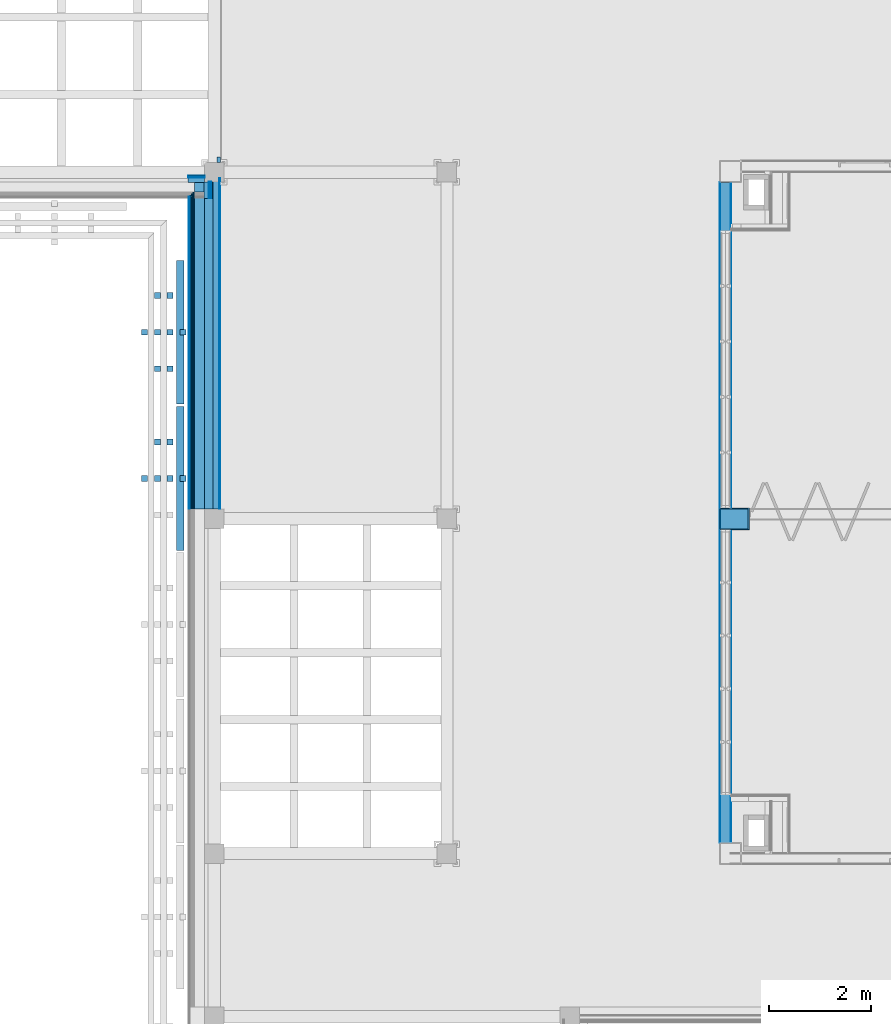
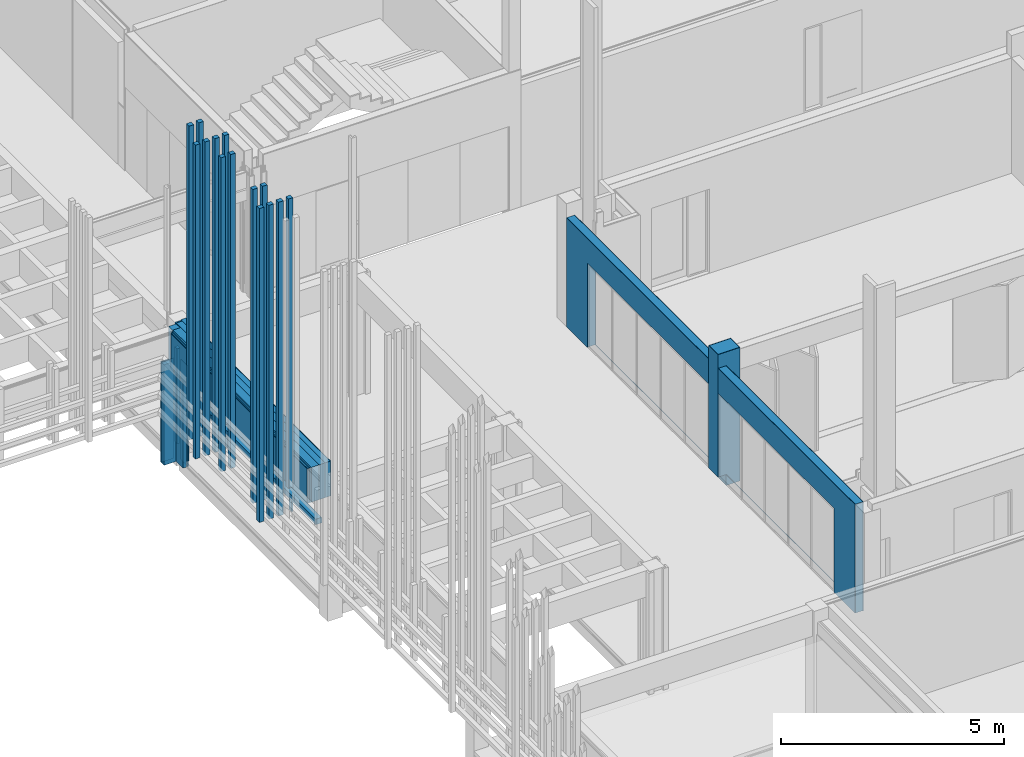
# One storey, part 75 of 139: 23 building element parts, 8 discrete accessories, 2 openings, 5 elements without a shape of their own.
"""IFC2X3 building model written with IfcOpenShell, lengths in millimetres."""

from ifc_helpers import new_model, entity, si_unit, converted_unit, derived_unit, money_unit, direction, frame, origin_with_axes, place, context, subcontext, project, spatial, faceted_brep, material, material_list, type_object, element, aggregate, save


model = new_model("IFC2X3")

# Units and contexts
model_context = context("Model", 3, precision=0.01, world=origin_with_axes(), true_north=direction((0.0, 1.0)))
body_context = subcontext(model_context, "Body", "Model", "MODEL_VIEW")
ifc_project = project(units=[si_unit("LENGTHUNIT", "METRE", prefix="MILLI"), si_unit("AREAUNIT", "SQUARE_METRE"), si_unit("VOLUMEUNIT", "CUBIC_METRE"), converted_unit("PLANEANGLEUNIT", "DEGREE", entity("IfcPlaneAngleMeasure", 0.0174532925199), si_unit("PLANEANGLEUNIT", "RADIAN"), dimensions=[0, 0, 0, 0, 0, 0, 0]), money_unit("EUR"), converted_unit("TIMEUNIT", "Year", entity("IfcTimeMeasure", 31556926.0), si_unit("TIMEUNIT", "SECOND"), dimensions=[0, 0, 1, 0, 0, 0, 0]), si_unit("MASSUNIT", "GRAM", prefix="KILO"), si_unit("THERMODYNAMICTEMPERATUREUNIT", "DEGREE_CELSIUS"), si_unit("LUMINOUSINTENSITYUNIT", "LUMEN"), si_unit("ENERGYUNIT", "JOULE", prefix="MEGA"), derived_unit("THERMALCONDUCTANCEUNIT", [(si_unit("POWERUNIT", "WATT"), 1), (si_unit("LENGTHUNIT", "METRE"), -1), (si_unit("THERMODYNAMICTEMPERATUREUNIT", "KELVIN"), -1)]), derived_unit("SPECIFICHEATCAPACITYUNIT", [(si_unit("ENERGYUNIT", "JOULE"), 1), (si_unit("MASSUNIT", "GRAM", prefix="KILO"), -1), (si_unit("THERMODYNAMICTEMPERATUREUNIT", "KELVIN"), -1)]), derived_unit("MASSDENSITYUNIT", [(si_unit("MASSUNIT", "GRAM", prefix="KILO"), 1), (si_unit("VOLUMEUNIT", "CUBIC_METRE"), -1)])], contexts=[model_context])

# Site, building, storey
site_placement = place(None, origin_with_axes())
site = spatial("IfcSite", under=ifc_project, at=site_placement, Name="Kolde pst 67a", CompositionType="ELEMENT")
building_placement = place(site_placement, origin_with_axes())
building = spatial("IfcBuilding", under=site, at=building_placement, Name="Riigigümnaasium", CompositionType="ELEMENT")
storey_placement = place(building_placement, frame((0.0, 0.0, 4600.0), z_axis=(0.0, 0.0, 1.0), x_axis=(1.0, 0.0, 0.0)))
storey = spatial("IfcBuildingStorey", under=building, at=storey_placement, Name="2. korrus", CompositionType="ELEMENT", Elevation=4600.0)

# Discrete accessories
ifc_material_1 = material(Name="_VÄLISVIIMISTLUS - sõrmjätkatud puitprussid 120x115mm, liitekohad vähemärgatavad, Platowood sõrmjätkatud kuusk või samaväärne; eeltöödeldud tuletõkkevõõbaga, tuletundlikkus B-s1, d0, Woodsafe Exterior WFX™ või samaväärne; kinnitused vastavalt EK osale")
ifc_material_list_1 = material_list([ifc_material_1, ifc_material_1, ifc_material_1, ifc_material_1])
discrete_accessory_type_1 = type_object("IfcDiscreteAccessoryType", Name="120 4-ne vertikaalne 870 x 115")
discrete_accessory_1_placement = place(storey_placement, frame((47687.9824571, 18226.7791441, 2150.0), z_axis=(0.0, 0.0, 1.0), x_axis=(-0.999999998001, -6.32316306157e-05, 0.0)))
element("IfcDiscreteAccessory", 1, at=discrete_accessory_1_placement, inside=storey, type_object=discrete_accessory_type_1, material=ifc_material_list_1, Name="Päikesevarjestus", context=body_context, shape_type="Brep", body=[
    faceted_brep([(47.9851405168, -70.0, 0.0), (47.9851405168, -70.0, 519.999664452), (47.9851405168, -70.0, 669.999664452), (133.0, -70.0, 669.999664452), (133.0, -70.0, 8580.0), (13.0, -70.0, 8580.0), (13.0, -70.0, 0.0), (47.9924121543, 45.0, 519.999664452), (47.9924121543, 45.0, 0.0), (47.9924121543, 45.0, 669.999664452), (133.0, 45.0, 669.999664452), (133.0, 45.0, 8580.0), (13.0, 45.0, 8580.0), (13.0, 45.0, 0.0)], [[[0, 1, 2, 3, 4, 5, 6]], [[7, 1, 0, 8]], [[1, 7, 9, 2]], [[10, 3, 2, 9]], [[4, 3, 10, 11]], [[5, 4, 11, 12]], [[5, 12, 13, 6]], [[8, 0, 6, 13]], [[7, 8, 13, 12, 11, 10, 9]]]),
    faceted_brep([(383.0, 45.0, 0.0), (263.0, 45.0, 0.0), (263.0, 45.0, 8580.0), (383.0, 45.0, 8580.0), (383.0, -70.0, 0.0), (263.0, -70.0, 0.0), (263.0, -70.0, 8580.0), (383.0, -70.0, 8580.0)], [[[0, 1, 2, 3]], [[0, 4, 5, 1]], [[1, 5, 6, 2]], [[3, 2, 6, 7]], [[4, 0, 3, 7]], [[5, 4, 7, 6]]]),
    faceted_brep([(633.0, 45.0, 0.0), (513.0, 45.0, 0.0), (513.0, 45.0, 8580.0), (633.0, 45.0, 8580.0), (633.0, -70.0, 0.0), (513.0, -70.0, 0.0), (513.0, -70.0, 8580.0), (633.0, -70.0, 8580.0)], [[[0, 1, 2, 3]], [[0, 4, 5, 1]], [[1, 5, 6, 2]], [[3, 2, 6, 7]], [[4, 0, 3, 7]], [[5, 4, 7, 6]]]),
    faceted_brep([(883.0, 45.0, 0.0), (763.0, 45.0, 0.0), (763.0, 45.0, 8580.0), (883.0, 45.0, 8580.0), (883.0, -70.0, 0.0), (763.0, -70.0, 0.0), (763.0, -70.0, 8580.0), (883.0, -70.0, 8580.0)], [[[0, 1, 2, 3]], [[0, 4, 5, 1]], [[1, 5, 6, 2]], [[3, 2, 6, 7]], [[4, 0, 3, 7]], [[5, 4, 7, 6]]]),
])
discrete_accessory_2_placement = place(storey_placement, frame((47687.9900449, 21086.7339336, 2150.0), z_axis=(0.0, 0.0, 1.0), x_axis=(-0.999999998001, -6.32316306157e-05, 0.0)))
element("IfcDiscreteAccessory", 2, at=discrete_accessory_2_placement, inside=storey, type_object=discrete_accessory_type_1, material=ifc_material_list_1, Name="Päikesevarjestus", context=body_context, shape_type="Brep", body=[
    faceted_brep([(47.9927283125, -70.0, 0.0), (47.9927283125, -70.0, 519.999664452), (47.9927283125, -70.0, 669.999664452), (133.0, -70.0, 669.999664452), (133.0, -70.0, 8580.0), (13.0, -70.0, 8580.0), (13.0, -70.0, 0.0), (47.99999995, 45.0, 519.999664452), (47.99999995, 45.0, 0.0), (47.99999995, 45.0, 669.999664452), (133.0, 45.0, 669.999664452), (133.0, 45.0, 8580.0), (13.0, 45.0, 8580.0), (13.0, 45.0, 0.0)], [[[0, 1, 2, 3, 4, 5, 6]], [[7, 1, 0, 8]], [[1, 7, 9, 2]], [[10, 3, 2, 9]], [[4, 3, 10, 11]], [[5, 4, 11, 12]], [[5, 12, 13, 6]], [[8, 0, 6, 13]], [[7, 8, 13, 12, 11, 10, 9]]]),
    faceted_brep([(383.0, 45.0, 0.0), (263.0, 45.0, 0.0), (263.0, 45.0, 8580.0), (383.0, 45.0, 8580.0), (383.0, -70.0, 0.0), (263.0, -70.0, 0.0), (263.0, -70.0, 8580.0), (383.0, -70.0, 8580.0)], [[[0, 1, 2, 3]], [[0, 4, 5, 1]], [[1, 5, 6, 2]], [[3, 2, 6, 7]], [[4, 0, 3, 7]], [[5, 4, 7, 6]]]),
    faceted_brep([(633.0, 45.0, 0.0), (513.0, 45.0, 0.0), (513.0, 45.0, 8580.0), (633.0, 45.0, 8580.0), (633.0, -70.0, 0.0), (513.0, -70.0, 0.0), (513.0, -70.0, 8580.0), (633.0, -70.0, 8580.0)], [[[0, 1, 2, 3]], [[0, 4, 5, 1]], [[1, 5, 6, 2]], [[3, 2, 6, 7]], [[4, 0, 3, 7]], [[5, 4, 7, 6]]]),
    faceted_brep([(883.0, 45.0, 0.0), (763.0, 45.0, 0.0), (763.0, 45.0, 8580.0), (883.0, 45.0, 8580.0), (883.0, -70.0, 0.0), (763.0, -70.0, 0.0), (763.0, -70.0, 8580.0), (883.0, -70.0, 8580.0)], [[[0, 1, 2, 3]], [[0, 4, 5, 1]], [[1, 5, 6, 2]], [[3, 2, 6, 7]], [[4, 0, 3, 7]], [[5, 4, 7, 6]]]),
])
ifc_material_list_2 = material_list([ifc_material_1, ifc_material_1])
discrete_accessory_type_2 = type_object("IfcDiscreteAccessoryType", Name="1+paiksekaitse 3 370 x 115")
for number, where, z_axis, x_axis in (
    (3, (46707.9854612, 21754.9192401, 2150.0), (0.0, 0.0, 1.0), (1.0, 0.0, 0.0)),
    (4, (46707.9854612, 18894.9192401, 2150.0), (0.0, 0.0, 1.0), (1.0, 0.0, 0.0)),
    (5, (46707.9854612, 20324.9192401, 2150.0), (0.0, 0.0, 1.0), (1.0, 0.0, 0.0)),
):
    element("IfcDiscreteAccessory", number, at=place(storey_placement, frame(where, z_axis=z_axis, x_axis=x_axis)), inside=storey, type_object=discrete_accessory_type_2, material=ifc_material_list_2, Name="Päikesevarjestus", context=body_context, shape_type="Brep", body=[
        faceted_brep([(467.0, 117.5, 0.0), (347.0, 117.5, 0.0), (347.0, 117.5, 8580.0), (467.0, 117.5, 8580.0), (467.0, 2.5, 0.0), (347.0, 2.5, 0.0), (347.0, 2.5, 8580.0), (467.0, 2.5, 8580.0)], [[[0, 1, 2, 3]], [[0, 4, 5, 1]], [[1, 5, 6, 2]], [[3, 2, 6, 7]], [[4, 0, 3, 7]], [[5, 4, 7, 6]]]),
        faceted_brep([(717.0, 117.5, 0.0), (597.0, 117.5, 0.0), (597.0, 117.5, 8580.0), (717.0, 117.5, 8580.0), (717.0, 2.5, 0.0), (597.0, 2.5, 0.0), (597.0, 2.5, 8580.0), (717.0, 2.5, 8580.0)], [[[0, 1, 2, 3]], [[0, 4, 5, 1]], [[1, 5, 6, 2]], [[3, 2, 6, 7]], [[4, 0, 3, 7]], [[5, 4, 7, 6]]]),
    ])
ifc_material_2 = material(Name="_METALL - teras")
discrete_accessory_type_3 = type_object("IfcDiscreteAccessoryType", Name="_METALL - teras 74 x 105")
discrete_accessory_3_placement = place(storey_placement, frame((48317.9854616, 24472.5014333, 0.0), z_axis=(0.0, 0.0, 1.0), x_axis=(-1.0, 0.0, 0.0)))
element("IfcDiscreteAccessory", 6, at=discrete_accessory_3_placement, inside=storey, type_object=discrete_accessory_type_3, material=ifc_material_2, Name="Tuletõkke kardin", context=body_context, shape_type="Brep", body=[
    faceted_brep([(37.0, 52.5, 2600.0), (37.0, 52.5, 0.0), (-37.0, 52.5, 0.0), (-37.0, 52.5, 2600.0), (37.0, -52.5, 2600.0), (37.0, -52.5, 0.0), (-37.0, -52.5, 0.0), (-37.0, -52.5, 2600.0)], [[[0, 1, 2, 3]], [[4, 5, 1, 0]], [[2, 1, 5, 6]], [[3, 2, 6, 7]], [[4, 0, 3, 7]], [[7, 6, 5, 4]]]),
])
ifc_material_3 = material(Name="_METALL - alumiinium")
discrete_accessory_type_4 = type_object("IfcDiscreteAccessoryType", Name="_METALL - alumiinium 155 x 150")
discrete_accessory_4_placement = place(storey_placement, frame((47562.4928905, 16831.7332373, 2744.99966445), z_axis=(0.0, 0.0, 1.0), x_axis=(1.0, 0.0, 0.0)))
element("IfcDiscreteAccessory", 7, at=discrete_accessory_4_placement, inside=storey, type_object=discrete_accessory_type_4, material=ifc_material_3, Name="Kardinvarjestus", context=body_context, shape_type="Brep", body=[
    faceted_brep([(77.5, 0.0, 75.0), (77.5, 2815.09022596, 75.0), (-77.5, 2815.09022596, 75.0), (-77.5, 0.0, 75.0), (77.5, 0.0, -75.0), (77.5, 2815.09022596, -75.0), (-77.5, 2815.09022596, -75.0), (-77.5, 0.0, -75.0)], [[[0, 1, 2, 3]], [[4, 5, 1, 0]], [[2, 1, 5, 6]], [[3, 2, 6, 7]], [[4, 0, 3, 7]], [[7, 6, 5, 4]]]),
])
discrete_accessory_5_placement = place(storey_placement, frame((47562.4928905, 19691.7332373, 2744.99966445), z_axis=(0.0, 0.0, 1.0), x_axis=(1.0, 0.0, 0.0)))
element("IfcDiscreteAccessory", 8, at=discrete_accessory_5_placement, inside=storey, type_object=discrete_accessory_type_4, material=ifc_material_3, Name="Kardinvarjestus", context=body_context, shape_type="Brep", body=[
    faceted_brep([(77.5, 0.0, 75.0), (77.5, 2814.9998744, 75.0), (-77.5, 2814.9998744, 75.0), (-77.5, 0.0, 75.0), (77.5, 0.0, -75.0), (77.5, 2814.9998744, -75.0), (-77.5, 2814.9998744, -75.0), (-77.5, 0.0, -75.0)], [[[0, 1, 2, 3]], [[4, 5, 1, 0]], [[2, 1, 5, 6]], [[3, 2, 6, 7]], [[4, 0, 3, 7]], [[7, 6, 5, 4]]]),
])

# Wall, openings, building element parts
wall_type_1 = type_object("IfcWallType", Name="SS-RB-20/1_+2 krohv 55 dB 220", PredefinedType="NOTDEFINED")
wall_1_placement = place(storey_placement, frame((58329.9488767, 24239.9999727, -15.0), z_axis=(0.0, 0.0, 1.0), x_axis=(0.0, -1.0, 0.0)))
wall_1 = element("IfcWall", 9, at=wall_1_placement, inside=storey, type_object=wall_type_1, Name="Sisesein")
opening_1_placement = place(wall_1_placement, frame((3862.50003466, 0.0, 15.0), z_axis=(0.0, 0.0, 1.0), x_axis=(1.0, 0.0, 0.0)))
element("IfcOpeningElement", 10, at=opening_1_placement, cuts=wall_1, Name="Ava", context=body_context, shape_type="Brep", body=[
    faceted_brep([(2717.50003466, 440.0, 0.0), (2717.50003466, 440.0, 2300.0), (2717.50003466, -220.0, 2300.0), (2717.50003466, -220.0, 0.0), (-2717.50003466, 440.0, 0.0), (-2717.50003466, 440.0, 2300.0), (-2717.50003466, -220.0, 2300.0), (-2717.50003466, -220.0, 0.0)], [[[0, 1, 2, 3]], [[0, 4, 5, 1]], [[1, 5, 6, 2]], [[3, 2, 6, 7]], [[4, 0, 3, 7]], [[5, 4, 7, 6]]]),
])
opening_2_placement = place(wall_1_placement, frame((9597.51903067, 0.0, 15.0), z_axis=(0.0, 0.0, 1.0), x_axis=(1.0, 0.0, 0.0)))
element("IfcOpeningElement", 11, at=opening_2_placement, cuts=wall_1, Name="Ava", context=body_context, shape_type="Brep", body=[
    faceted_brep([(2597.51900133, 440.0, 0.0), (2597.51900133, 440.0, 2300.0), (2597.51900133, -220.0, 2300.0), (2597.51900133, -220.0, 0.0), (-2597.51900133, 440.0, 0.0), (-2597.51900133, 440.0, 2300.0), (-2597.51900133, -220.0, 2300.0), (-2597.51900133, -220.0, 0.0)], [[[0, 1, 2, 3]], [[0, 4, 5, 1]], [[1, 5, 6, 2]], [[3, 2, 6, 7]], [[4, 0, 3, 7]], [[5, 4, 7, 6]]]),
])
ifc_material_4 = material(Name="_VIIMISTLUSKIHT - viimistlus vastavalt SA osale")
building_element_part_1_placement = place(wall_1_placement, origin_with_axes())
building_element_part_1 = element("IfcBuildingElementPart", 12, at=building_element_part_1_placement, material=ifc_material_4, Name="_VIIMISTLUSKIHT - viimistlus vastavalt SA osale", context=body_context, shape_type="Brep", body=[
    faceted_brep([(209.726139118, 10.0, 0.0), (209.726139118, 10.0, 2990.0), (13130.038032, 10.0, 2990.0), (13130.038032, 10.0, 0.0), (1145.0, 10.0, 2315.0), (1145.0, 10.0, 15.0), (6580.00006932, 10.0, 15.0), (6580.00006932, 10.0, 2315.0), (12195.038032, 10.0, 2315.0), (7000.00002934, 10.0, 2315.0), (7000.00002934, 10.0, 15.0), (12195.038032, 10.0, 15.0), (209.726139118, 0.0, 2990.0), (209.726139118, 0.0, 0.0), (13130.038032, 0.0, 2990.0), (13130.038032, 0.0, 0.0), (1145.0, 0.0, 2315.0), (1145.0, 0.0, 15.0), (6580.00006932, 0.0, 15.0), (6580.00006932, 0.0, 2315.0), (12195.038032, 0.0, 2315.0), (7000.00002934, 0.0, 2315.0), (7000.00002934, 0.0, 15.0), (12195.038032, 0.0, 15.0)], [[[0, 1, 2, 3], [4, 5, 6, 7], [8, 9, 10, 11]], [[12, 1, 0, 13]], [[1, 12, 14, 2]], [[15, 3, 2, 14]], [[13, 0, 3, 15]], [[16, 17, 5, 4]], [[17, 18, 6, 5]], [[18, 19, 7, 6]], [[19, 16, 4, 7]], [[8, 20, 21, 9]], [[9, 21, 22, 10]], [[10, 22, 23, 11]], [[11, 23, 20, 8]], [[12, 13, 15, 14], [16, 19, 18, 17], [22, 21, 20, 23]]]),
])
ifc_material_5 = material(Name="_KANDETARIND - monteeritav raudbetoon vastavalt EK osale")
building_element_part_2_placement = place(wall_1_placement, origin_with_axes())
building_element_part_2 = element("IfcBuildingElementPart", 13, at=building_element_part_2_placement, material=ifc_material_5, Name="_KANDETARIND - monteeritav raudbetoon vastavalt EK osale", context=body_context, shape_type="Brep", body=[
    faceted_brep([(209.726139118, 0.0, 15.0), (209.726139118, 0.0, 2990.0), (13130.038032, 0.0, 2990.0), (13130.038032, 0.0, 15.0), (12195.038032, 0.0, 15.0), (12195.038032, 0.0, 2315.0), (7000.00002934, 0.0, 2315.0), (7000.00002934, 0.0, 15.0), (6580.00006932, 0.0, 15.0), (6580.00006932, 0.0, 2315.0), (1145.0, 0.0, 2315.0), (1145.0, 0.0, 15.0), (209.726139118, -200.0, 2990.0), (209.726139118, -200.0, 15.0), (13130.038032, -200.0, 2990.0), (13130.038032, -200.0, 15.0), (12195.038032, -200.0, 15.0), (12195.038032, -200.0, 2315.0), (7000.00002934, -200.0, 2315.0), (7000.00002934, -200.0, 15.0), (6580.00006932, -200.0, 15.0), (6580.00006932, -200.0, 2315.0), (1145.0, -200.0, 2315.0), (1145.0, -200.0, 15.0)], [[[0, 1, 2, 3, 4, 5, 6, 7, 8, 9, 10, 11]], [[12, 1, 0, 13]], [[1, 12, 14, 2]], [[15, 3, 2, 14]], [[4, 3, 15, 16]], [[17, 5, 4, 16]], [[5, 17, 18, 6]], [[6, 18, 19, 7]], [[7, 19, 20, 8]], [[21, 9, 8, 20]], [[21, 22, 10, 9]], [[10, 22, 23, 11]], [[13, 0, 11, 23]], [[12, 13, 23, 22, 21, 20, 19, 18, 17, 16, 15, 14]]]),
])
building_element_part_3_placement = place(wall_1_placement, origin_with_axes())
building_element_part_3 = element("IfcBuildingElementPart", 14, at=building_element_part_3_placement, material=ifc_material_4, Name="_VIIMISTLUSKIHT - viimistlus vastavalt SA osale", context=body_context, shape_type="Brep", body=[
    faceted_brep([(209.726139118, -200.0, 15.0), (209.726139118, -200.0, 2990.0), (13130.038032, -200.0, 2990.0), (13130.038032, -200.0, 15.0), (12195.038032, -200.0, 15.0), (12195.038032, -200.0, 2315.0), (7000.00002934, -200.0, 2315.0), (7000.00002934, -200.0, 15.0), (6580.00006932, -200.0, 15.0), (6580.00006932, -200.0, 2315.0), (1145.0, -200.0, 2315.0), (1145.0, -200.0, 15.0), (209.726139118, -210.000019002, 2990.0), (209.726139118, -210.000019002, 15.0), (13130.038032, -209.999981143, 2990.0), (13130.038032, -209.999981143, 15.0), (12195.038032, -210.0, 15.0), (12195.038032, -210.0, 2315.0), (7000.00002934, -210.0, 2315.0), (7000.00002934, -210.0, 15.0), (6580.00006932, -210.0, 15.0), (6580.00006932, -210.0, 2315.0), (1145.0, -210.0, 2315.0), (1145.0, -210.0, 15.0)], [[[0, 1, 2, 3, 4, 5, 6, 7, 8, 9, 10, 11]], [[12, 1, 0, 13]], [[1, 12, 14, 2]], [[15, 3, 2, 14]], [[4, 3, 15, 16]], [[17, 5, 4, 16]], [[5, 17, 18, 6]], [[6, 18, 19, 7]], [[7, 19, 20, 8]], [[21, 9, 8, 20]], [[21, 22, 10, 9]], [[10, 22, 23, 11]], [[13, 0, 11, 23]], [[12, 13, 23, 22, 21, 20, 19, 18, 17, 16, 15, 14]]]),
])
aggregate(wall_1, [building_element_part_1, building_element_part_2, building_element_part_3])

# Wall, building element parts
wall_type_2 = type_object("IfcWallType", Name="VS-CLT-16/5_karkass 100+soojust 200+laudis 620", PredefinedType="NOTDEFINED")
wall_2_placement = place(storey_placement, frame((48039.9854607, 24039.9999727, 2669.9994902), z_axis=(0.0, 0.0, 1.0), x_axis=(0.0, -1.0, 0.0)))
wall_2 = element("IfcWall", 15, at=wall_2_placement, inside=storey, type_object=wall_type_2, Name="Välissein")
ifc_material_6 = material(Name="_PLAATMATERJAL - niiskuskindel vineerplaat, kvaliteediklass BB")
building_element_part_4_placement = place(wall_2_placement, origin_with_axes())
building_element_part_4 = element("IfcBuildingElementPart", 16, at=building_element_part_4_placement, material=ifc_material_6, Name="_PLAATMATERJAL - niiskuskindel vineerplaat, kvaliteediklass BB", context=body_context, shape_type="Brep", body=[
    faceted_brep([(-70.0, 290.0, 650.000509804), (-70.0, 308.0, 650.000509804), (-70.0, 308.0, 0.0), (-70.0, 290.0, 0.0), (-66.0679314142, 308.0, 650.000509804), (-66.0679314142, 290.0, 650.000509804), (-66.0679314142, 308.0, 950.000509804), (6394.31650003, 308.0, 950.000509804), (6394.31650003, 308.0, 0.0), (6394.31650003, 290.0, 0.0), (6394.31650003, 290.0, 950.000509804), (-66.0679314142, 290.0, 950.000509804)], [[[0, 1, 2, 3]], [[4, 1, 0, 5]], [[4, 6, 7, 8, 2, 1]], [[9, 3, 2, 8]], [[5, 0, 3, 9, 10, 11]], [[4, 5, 11, 6]], [[6, 11, 10, 7]], [[10, 9, 8, 7]]]),
])
ifc_material_7 = material(Name="_KARKASS - puitroov 50x130mm, s. 600mm")
building_element_part_5_placement = place(wall_2_placement, origin_with_axes())
building_element_part_5 = element("IfcBuildingElementPart", 17, at=building_element_part_5_placement, material=ifc_material_7, Name="_KARKASS - puitroov 50x130mm, s. 600mm", context=body_context, shape_type="Brep", body=[
    faceted_brep([(-70.0, 160.0, 650.000509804), (-70.0, 290.0, 650.000509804), (-70.0, 290.0, 0.0), (-70.0, 160.0, 0.0), (-66.0679314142, 290.0, 650.000509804), (-66.0679314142, 160.0, 650.000509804), (-66.0679314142, 290.0, 950.000509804), (6394.31650003, 290.0, 950.000509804), (6394.31650003, 290.0, 0.0), (6394.31650003, 160.0, 0.0), (6394.31650003, 160.0, 950.000509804), (-66.0679314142, 160.0, 950.000509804)], [[[0, 1, 2, 3]], [[4, 1, 0, 5]], [[4, 6, 7, 8, 2, 1]], [[9, 3, 2, 8]], [[5, 0, 3, 9, 10, 11]], [[4, 5, 11, 6]], [[6, 11, 10, 7]], [[10, 9, 8, 7]]]),
])
ifc_material_8 = material(Name="_KANDETARIND - CLT ristkihtliimpuit vastavalt EK osale, CLT paigaldusvuugid teibitakse ROTHOBLAAS teibiga")
building_element_part_6_placement = place(wall_2_placement, origin_with_axes())
building_element_part_6 = element("IfcBuildingElementPart", 18, at=building_element_part_6_placement, material=ifc_material_8, Name="_KANDETARIND - CLT ristkihtliimpuit vastavalt EK osale, CLT paigaldusvuugid teibitakse ROTHOBLAAS teibiga", context=body_context, shape_type="Brep", body=[
    faceted_brep([(-70.0, 0.0, 650.000509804), (-70.0, 160.0, 650.000509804), (-70.0, 160.0, 0.0), (-70.0, 0.0, 0.0), (-66.0679314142, 160.0, 650.000509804), (-66.0679314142, 0.0, 650.000509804), (-66.0679314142, 160.0, 930.000509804), (0.0, 160.0, 930.000509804), (0.0, 160.0, 950.000509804), (6394.31650003, 160.0, 950.000509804), (6394.31650003, 160.0, 0.0), (6394.31650003, 0.0, 0.0), (6394.31650003, 0.0, 950.000509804), (0.0, 0.0, 950.000509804), (0.0, 0.0, 930.000509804), (-66.0679314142, 0.0, 930.000509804)], [[[0, 1, 2, 3]], [[4, 1, 0, 5]], [[4, 6, 7, 8, 9, 10, 2, 1]], [[10, 11, 3, 2]], [[5, 0, 3, 11, 12, 13, 14, 15]], [[15, 6, 4, 5]], [[6, 15, 14, 7]], [[14, 13, 8, 7]], [[9, 8, 13, 12]], [[9, 12, 11, 10]]]),
])
ifc_material_9 = material(Name="_SOOJUSTUS - mineraalvill, λD<0,032 W/(mK), kuumtsingitud lehtteras termoroovidega, S350GD+Zn275 vastavalt EN10346, ISOVER EXTREME 32 200mm või samaväärne")
building_element_part_7_placement = place(wall_2_placement, origin_with_axes())
building_element_part_7 = element("IfcBuildingElementPart", 19, at=building_element_part_7_placement, material=ifc_material_9, Name="_SOOJUSTUS - mineraalvill, λD<0,032 W/(mK), kuumtsingitud lehtteras termoroovidega, S350GD+Zn275 vastavalt EN10346, ISOVER EXTREME 32 200mm või samaväärne", context=body_context, shape_type="Brep", body=[
    faceted_brep([(6394.31650003, 0.0, 0.0), (0.0, 0.0, 1.62261581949e-06), (0.0, 0.0, 930.000509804), (200.0, 0.0, 930.000509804), (200.0, 0.0, 950.000509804), (6394.31650003, 0.0, 950.000509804), (6394.31650003, -200.0, 0.0), (0.0, -200.0, 1.60926738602e-06), (0.0, -200.0, 930.000509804), (200.0, -200.0, 930.000509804), (200.0, -200.0, 950.000509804), (6394.31650003, -200.0, 950.000509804)], [[[0, 1, 2, 3, 4, 5]], [[6, 7, 1, 0]], [[7, 8, 2, 1]], [[3, 2, 8, 9]], [[9, 10, 4, 3]], [[5, 4, 10, 11]], [[5, 11, 6, 0]], [[9, 8, 7, 6, 11, 10]]]),
])
ifc_material_10 = material(Name="_TUULETÕKE - tuuletõkkeplaat, soojuserijuhtivus λD<0,031 W/(mK), ISOVER RKL FACADE või samaväärne, liitekohad katta tihendusteibiga ISOVER FacadeTape või samaväärne")
building_element_part_8_placement = place(wall_2_placement, origin_with_axes())
building_element_part_8 = element("IfcBuildingElementPart", 20, at=building_element_part_8_placement, material=ifc_material_10, Name="_TUULETÕKE - tuuletõkkeplaat, soojuserijuhtivus λD<0,031 W/(mK), ISOVER RKL FACADE või samaväärne, liitekohad katta tihendusteibiga ISOVER FacadeTape või samaväärne", context=body_context, shape_type="Brep", body=[
    faceted_brep([(6394.31650003, -200.0, 0.0), (199.999997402, -200.0, 1.60926738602e-06), (200.0, -200.0, 930.000509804), (230.0, -200.0, 930.000509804), (230.0, -200.0, 950.000509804), (6394.31650003, -200.0, 950.000509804), (6394.31650003, -230.0, 0.0), (199.999997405, -230.0, 1.60726454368e-06), (200.0, -230.0, 930.000509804), (230.0, -230.0, 930.000509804), (230.0, -230.0, 950.000509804), (6394.31650003, -230.0, 950.000509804)], [[[0, 1, 2, 3, 4, 5]], [[6, 7, 1, 0]], [[7, 8, 2, 1]], [[3, 2, 8, 9]], [[9, 10, 4, 3]], [[5, 4, 10, 11]], [[5, 11, 6, 0]], [[9, 8, 7, 6, 11, 10]]]),
])
ifc_material_11 = material(Name="_KARKASS - puitroov 32x50mm vertikaalne, immutatud Driconi tulekaitsevahendiga või samaväärne, samm 600mm")
building_element_part_9_placement = place(wall_2_placement, origin_with_axes())
building_element_part_9 = element("IfcBuildingElementPart", 21, at=building_element_part_9_placement, material=ifc_material_11, Name="_KARKASS - puitroov 32x50mm vertikaalne, immutatud Driconi tulekaitsevahendiga või samaväärne, samm 600mm", context=body_context, shape_type="Brep", body=[
    faceted_brep([(6394.31650003, -230.0, 0.0), (229.999999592, -230.0, 1.60726543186e-06), (230.0, -230.0, 930.000509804), (262.0, -230.0, 930.000509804), (262.0, -230.0, 950.000509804), (6394.31650003, -230.0, 950.000509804), (6394.31650003, -262.0, 0.0), (229.999999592, -262.0, 1.60512936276e-06), (230.0, -262.0, 930.000509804), (262.0, -262.0, 930.000509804), (262.0, -262.0, 950.000509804), (6394.31650003, -262.0, 950.000509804)], [[[0, 1, 2, 3, 4, 5]], [[6, 7, 1, 0]], [[7, 8, 2, 1]], [[3, 2, 8, 9]], [[9, 10, 4, 3]], [[5, 4, 10, 11]], [[5, 11, 6, 0]], [[9, 8, 7, 6, 11, 10]]]),
])
ifc_material_12 = material(Name="_KARKASS - puitroov 32x50mm horisontaalne, immutatud Driconi tulekaitsevahendiga või samaväärne, samm 600mm")
building_element_part_10_placement = place(wall_2_placement, origin_with_axes())
building_element_part_10 = element("IfcBuildingElementPart", 22, at=building_element_part_10_placement, material=ifc_material_12, Name="_KARKASS - puitroov 32x50mm horisontaalne, immutatud Driconi tulekaitsevahendiga või samaväärne, samm 600mm", context=body_context, shape_type="Brep", body=[
    faceted_brep([(6394.31650003, -262.0, 0.0), (262.0, -262.0, 1.60512936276e-06), (262.0, -262.0, 930.000509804), (294.0, -262.0, 930.000509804), (294.0, -262.0, 950.000509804), (6394.31650003, -262.0, 950.000509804), (6394.31650003, -294.0, 0.0), (262.0, -294.0, 1.60299329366e-06), (262.0, -294.0, 930.000509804), (294.0, -294.0, 930.000509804), (294.0, -294.0, 950.000509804), (6394.31650003, -294.0, 950.000509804)], [[[0, 1, 2, 3, 4, 5]], [[6, 7, 1, 0]], [[7, 8, 2, 1]], [[3, 2, 8, 9]], [[9, 10, 4, 3]], [[5, 4, 10, 11]], [[5, 11, 6, 0]], [[9, 8, 7, 6, 11, 10]]]),
])
ifc_material_13 = material(Name="_VÄLISVIIMISTLUS - vertikaalne voodrilaud, Platowood P01 profiil 18x140mm, kuusk; eeltöödeldud tuletõkkega mõlemad küljed, B-s1, d0, Woodsafe Exterior WFX™ või samaväärne")
building_element_part_11_placement = place(wall_2_placement, origin_with_axes())
building_element_part_11 = element("IfcBuildingElementPart", 23, at=building_element_part_11_placement, material=ifc_material_13, Name="_VÄLISVIIMISTLUS - vertikaalne voodrilaud, Platowood P01 profiil 18x140mm, kuusk; eeltöödeldud tuletõkkega mõlemad küljed, B-s1, d0, Woodsafe Exterior WFX™ või samaväärne", context=body_context, shape_type="Brep", body=[
    faceted_brep([(6394.31650003, -294.0, 0.0), (293.999998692, -294.0, 1.60299329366e-06), (294.0, -294.0, 930.000509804), (312.0, -294.0, 930.000509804), (312.0, -294.0, 950.000509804), (6394.31650003, -294.0, 950.000509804), (6394.31650003, -312.0, 0.0), (293.999998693, -312.0, 1.60179247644e-06), (294.0, -312.0, 930.000509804), (312.0, -312.0, 930.000509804), (312.0, -312.0, 950.000509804), (6394.31650003, -312.0, 950.000509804)], [[[0, 1, 2, 3, 4, 5]], [[6, 7, 1, 0]], [[7, 8, 2, 1]], [[3, 2, 8, 9]], [[9, 10, 4, 3]], [[5, 4, 10, 11]], [[5, 11, 6, 0]], [[9, 8, 7, 6, 11, 10]]]),
])
aggregate(wall_2, [building_element_part_4, building_element_part_5, building_element_part_6, building_element_part_7, building_element_part_8, building_element_part_9, building_element_part_10, building_element_part_11])

wall_type_3 = type_object("IfcWallType", Name="SS-MK-10/4_šahti sein+dold  160", PredefinedType="NOTDEFINED")
wall_3_placement = place(storey_placement, frame((48124.9854607, 24040.000114, -150.0), z_axis=(0.0, 0.0, 1.0), x_axis=(5.46596943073e-09, -1.0, 0.0)))
wall_3 = element("IfcWall", 24, at=wall_3_placement, inside=storey, type_object=wall_type_3, Name="Sisesein")
ifc_material_14 = material(Name="_VIIMISTLUSKIHT - Dold plaat vastavalt SA osale")
building_element_part_12_placement = place(wall_3_placement, origin_with_axes())
building_element_part_12 = element("IfcBuildingElementPart", 25, at=building_element_part_12_placement, material=ifc_material_14, Name="_VIIMISTLUSKIHT - Dold plaat vastavalt SA osale", context=body_context, shape_type="Brep", body=[
    faceted_brep([(319.50033104, 39.9999982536, 2750.0), (319.50033115, 59.9999982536, 2750.0), (3.27958105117e-07, 60.0, 2750.0), (2.18637552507e-07, 40.0, 2750.0), (319.50033104, 39.9999982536, 0.0), (319.50033115, 59.9999982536, 0.0), (3.27958105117e-07, 60.0, 0.0), (2.18637552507e-07, 40.0, 0.0)], [[[0, 1, 2, 3]], [[0, 4, 5, 1]], [[1, 5, 6, 2]], [[3, 2, 6, 7]], [[4, 0, 3, 7]], [[5, 4, 7, 6]]]),
])
ifc_material_15 = material(Name="_KARKASS - eriprofiilkinnitus vastavalt sisemisele plaatviimistlusele")
building_element_part_13_placement = place(wall_3_placement, origin_with_axes())
building_element_part_13 = element("IfcBuildingElementPart", 26, at=building_element_part_13_placement, material=ifc_material_15, Name="_KARKASS - eriprofiilkinnitus vastavalt sisemisele plaatviimistlusele", context=body_context, shape_type="Brep", body=[
    faceted_brep([(319.500330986, 29.9999982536, 2750.0), (319.50033104, 39.9999982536, 2750.0), (2.18637552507e-07, 40.0, 2750.0), (1.63979052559e-07, 30.0, 2750.0), (319.500330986, 29.9999982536, 0.0), (319.50033104, 39.9999982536, 0.0), (2.18637552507e-07, 40.0, 0.0), (1.63979052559e-07, 30.0, 0.0)], [[[0, 1, 2, 3]], [[0, 4, 5, 1]], [[1, 5, 6, 2]], [[3, 2, 6, 7]], [[4, 0, 3, 7]], [[5, 4, 7, 6]]]),
])
ifc_material_16 = material(Name="_PLAATMATERJAL - tuletõkkekipsplaat, Knauf Red GKF või samaväärne")
building_element_part_14_placement = place(wall_3_placement, origin_with_axes())
building_element_part_14 = element("IfcBuildingElementPart", 27, at=building_element_part_14_placement, material=ifc_material_16, Name="_PLAATMATERJAL - tuletõkkekipsplaat, Knauf Red GKF või samaväärne", context=body_context, shape_type="Brep", body=[
    faceted_brep([(319.500330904, 14.9999982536, 2750.0), (319.500330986, 29.9999982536, 2750.0), (1.63979052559e-07, 30.0, 2750.0), (8.19895262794e-08, 15.0, 2750.0), (319.500330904, 14.9999982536, 0.0), (319.500330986, 29.9999982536, 0.0), (1.63979052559e-07, 30.0, 0.0), (8.19895262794e-08, 15.0, 0.0)], [[[0, 1, 2, 3]], [[0, 4, 5, 1]], [[1, 5, 6, 2]], [[3, 2, 6, 7]], [[4, 0, 3, 7]], [[5, 4, 7, 6]]]),
])
building_element_part_15_placement = place(wall_3_placement, origin_with_axes())
building_element_part_15 = element("IfcBuildingElementPart", 28, at=building_element_part_15_placement, material=ifc_material_16, Name="_PLAATMATERJAL - tuletõkkekipsplaat, Knauf Red GKF või samaväärne", context=body_context, shape_type="Brep", body=[
    faceted_brep([(319.500330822, -1.74637904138e-06, 2750.0), (319.500330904, 14.9999982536, 2750.0), (8.19895262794e-08, 15.0, 2750.0), (0.0, 0.0, 2750.0), (319.500330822, -1.74637904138e-06, 0.0), (319.500330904, 14.9999982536, 0.0), (8.19895262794e-08, 15.0, 0.0), (0.0, 0.0, 0.0)], [[[0, 1, 2, 3]], [[0, 4, 5, 1]], [[1, 5, 6, 2]], [[3, 2, 6, 7]], [[4, 0, 3, 7]], [[5, 4, 7, 6]]]),
])
ifc_material_17 = material(Name="_KARKASS - metallkarkass CW 100/50/06 ja UW 100/40/06, samm 600, vahel mineraalvill, helineeldetegur αw = 1.0,  ISOVER ACOUSTIC 100mm või samaväärne")
building_element_part_16_placement = place(wall_3_placement, origin_with_axes())
building_element_part_16 = element("IfcBuildingElementPart", 29, at=building_element_part_16_placement, material=ifc_material_17, Name="_KARKASS - metallkarkass CW 100/50/06 ja UW 100/40/06, samm 600, vahel mineraalvill, helineeldetegur αw = 1.0,  ISOVER ACOUSTIC 100mm või samaväärne", context=body_context, shape_type="Brep", body=[
    faceted_brep([(319.500330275, -100.000001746, 2750.0), (319.500330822, -1.74637904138e-06, 2750.0), (0.0, 0.0, 2750.0), (-5.46595657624e-07, -100.0, 2750.0), (319.500330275, -100.000001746, 0.0), (319.500330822, -1.74637904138e-06, 0.0), (0.0, 0.0, 0.0), (-5.46595657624e-07, -100.0, 0.0)], [[[0, 1, 2, 3]], [[0, 4, 5, 1]], [[1, 5, 6, 2]], [[3, 2, 6, 7]], [[4, 0, 3, 7]], [[5, 4, 7, 6]]]),
])
aggregate(wall_3, [building_element_part_12, building_element_part_13, building_element_part_14, building_element_part_15, building_element_part_16])

wall_4_placement = place(storey_placement, frame((48039.9855791, 24125.270425, -150.0), z_axis=(0.0, 0.0, 1.0), x_axis=(-1.0, 0.0, 0.0)))
wall_4 = element("IfcWall", 30, at=wall_4_placement, inside=storey, type_object=wall_type_3, Name="Sisesein")
building_element_part_17_placement = place(wall_4_placement, origin_with_axes())
building_element_part_17 = element("IfcBuildingElementPart", 31, at=building_element_part_17_placement, material=ifc_material_17, Name="_KARKASS - metallkarkass CW 100/50/06 ja UW 100/40/06, samm 600, vahel mineraalvill, helineeldetegur αw = 1.0,  ISOVER ACOUSTIC 100mm või samaväärne", context=body_context, shape_type="Brep", body=[
    faceted_brep([(321.662897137, 100.0, 0.0), (321.662897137, 0.0, 0.0), (0.0, 0.0, 0.0), (0.0, 100.0, 0.0), (321.662897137, 100.0, 2750.0), (321.662897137, 0.0, 2750.0), (0.0, 0.0, 2750.0), (0.0, 100.0, 2750.0)], [[[0, 1, 2, 3]], [[0, 4, 5, 1]], [[1, 5, 6, 2]], [[3, 2, 6, 7]], [[4, 0, 3, 7]], [[5, 4, 7, 6]]]),
])
building_element_part_18_placement = place(wall_4_placement, origin_with_axes())
building_element_part_18 = element("IfcBuildingElementPart", 32, at=building_element_part_18_placement, material=ifc_material_16, Name="_PLAATMATERJAL - tuletõkkekipsplaat, Knauf Red GKF või samaväärne", context=body_context, shape_type="Brep", body=[
    faceted_brep([(321.662897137, 0.0, 0.0), (321.662897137, -15.0, 0.0), (0.0, -15.0, 0.0), (0.0, 0.0, 0.0), (321.662897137, 0.0, 2750.0), (321.662897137, -15.0, 2750.0), (0.0, -15.0, 2750.0), (0.0, 0.0, 2750.0)], [[[0, 1, 2, 3]], [[0, 4, 5, 1]], [[1, 5, 6, 2]], [[3, 2, 6, 7]], [[4, 0, 3, 7]], [[5, 4, 7, 6]]]),
])
building_element_part_19_placement = place(wall_4_placement, origin_with_axes())
building_element_part_19 = element("IfcBuildingElementPart", 33, at=building_element_part_19_placement, material=ifc_material_16, Name="_PLAATMATERJAL - tuletõkkekipsplaat, Knauf Red GKF või samaväärne", context=body_context, shape_type="Brep", body=[
    faceted_brep([(321.662897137, -15.0, 0.0), (321.662897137, -30.0, 0.0), (0.0, -30.0, 0.0), (0.0, -15.0, 0.0), (321.662897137, -15.0, 2750.0), (321.662897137, -30.0, 2750.0), (0.0, -30.0, 2750.0), (0.0, -15.0, 2750.0)], [[[0, 1, 2, 3]], [[0, 4, 5, 1]], [[1, 5, 6, 2]], [[3, 2, 6, 7]], [[4, 0, 3, 7]], [[5, 4, 7, 6]]]),
])
building_element_part_20_placement = place(wall_4_placement, origin_with_axes())
building_element_part_20 = element("IfcBuildingElementPart", 34, at=building_element_part_20_placement, material=ifc_material_15, Name="_KARKASS - eriprofiilkinnitus vastavalt sisemisele plaatviimistlusele", context=body_context, shape_type="Brep", body=[
    faceted_brep([(321.662897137, -30.0, 0.0), (321.662897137, -40.0, 0.0), (0.0, -40.0, 0.0), (0.0, -30.0, 0.0), (321.662897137, -30.0, 2750.0), (321.662897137, -40.0, 2750.0), (0.0, -40.0, 2750.0), (0.0, -30.0, 2750.0)], [[[0, 1, 2, 3]], [[0, 4, 5, 1]], [[1, 5, 6, 2]], [[3, 2, 6, 7]], [[4, 0, 3, 7]], [[5, 4, 7, 6]]]),
])
building_element_part_21_placement = place(wall_4_placement, origin_with_axes())
building_element_part_21 = element("IfcBuildingElementPart", 35, at=building_element_part_21_placement, material=ifc_material_14, Name="_VIIMISTLUSKIHT - Dold plaat vastavalt SA osale", context=body_context, shape_type="Brep", body=[
    faceted_brep([(321.662897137, -40.0, 0.0), (321.662897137, -60.0, 0.0), (0.0, -60.0, 0.0), (0.0, -40.0, 0.0), (321.662897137, -40.0, 2750.0), (321.662897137, -60.0, 2750.0), (0.0, -60.0, 2750.0), (0.0, -40.0, 2750.0)], [[[0, 1, 2, 3]], [[0, 4, 5, 1]], [[1, 5, 6, 2]], [[3, 2, 6, 7]], [[4, 0, 3, 7]], [[5, 4, 7, 6]]]),
])
aggregate(wall_4, [building_element_part_17, building_element_part_18, building_element_part_19, building_element_part_20, building_element_part_21])

# Column, building element parts
column_type = type_object("IfcColumnType", Name="_KANDETARIND - raudbetoon C25/30 vastavalt EK osale 570 x 420", PredefinedType="COLUMN")
column_placement = place(storey_placement, frame((58404.9682996, 17449.9999742, -300.0), z_axis=(0.0, 0.0, 1.0), x_axis=(1.0, 0.0, 0.0)))
column = element("IfcColumn", 36, at=column_placement, inside=storey, type_object=column_type, Name="POST", ObjectType="COLUMN")
building_element_part_22_placement = place(column_placement, origin_with_axes())
building_element_part_22 = element("IfcBuildingElementPart", 37, at=building_element_part_22_placement, material=ifc_material_4, Name="_VIIMISTLUSKIHT - viimistlus vastavalt SA osale", context=body_context, shape_type="Brep", body=[
    faceted_brep([(-75.0193923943, -200.000003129, 0.0), (-75.0194229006, -200.000003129, 300.0), (-275.000003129, -200.000003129, 300.0), (-275.000003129, -200.000003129, 3650.0), (275.000003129, -200.000003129, 3650.0), (275.000003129, -200.000003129, 0.0), (-75.0193924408, -210.0, 0.0), (-75.0194229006, -210.0, 300.0), (-285.0, 209.999995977, 300.0), (-75.0194229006, 209.999995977, 300.0), (-75.0194229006, 199.999999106, 300.0), (-275.000003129, 199.999999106, 300.0), (-285.0, -210.0, 300.0), (-275.000003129, 199.999999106, 3650.0), (285.0, 209.999995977, 3650.0), (-285.0, 209.999995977, 3650.0), (-285.0, -210.0, 3650.0), (285.0, -210.0, 3650.0), (275.000003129, 199.999999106, 3650.0), (275.000003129, 199.999999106, 0.0), (-75.0193905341, 199.999999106, 0.0), (-75.0193904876, 209.999995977, 0.0), (285.0, 209.999995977, 0.0), (285.0, -210.0, 0.0)], [[[0, 1, 2, 3, 4, 5]], [[1, 0, 6, 7]], [[8, 9, 10, 11, 2, 1, 7, 12]], [[2, 11, 13, 3]], [[14, 15, 16, 17], [4, 3, 13, 18]], [[18, 19, 5, 4]], [[20, 21, 22, 23, 6, 0, 5, 19]], [[6, 23, 17, 16, 12, 7]], [[21, 9, 8, 15, 14, 22]], [[9, 21, 20, 10]], [[20, 19, 18, 13, 11, 10]], [[8, 12, 16, 15]], [[17, 23, 22, 14]]]),
])
ifc_material_18 = material(Name="_KANDETARIND - raudbetoon C25/30 vastavalt EK osale")
building_element_part_23_placement = place(column_placement, origin_with_axes())
building_element_part_23 = element("IfcBuildingElementPart", 38, at=building_element_part_23_placement, material=ifc_material_18, Name="_KANDETARIND - raudbetoon C25/30 vastavalt EK osale", context=body_context, shape_type="Brep", body=[
    faceted_brep([(-75.0193905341, 200.0, 0.0), (-75.0194229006, 200.0, 300.0), (-275.0, 200.0, 300.0), (-275.0, 200.0, 3650.0), (275.0, 200.0, 3650.0), (275.0, 200.0, 0.0), (-75.0193923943, -200.0, 0.0), (-75.0194229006, -200.0, 300.0), (-275.0, -200.0, 300.0), (-275.0, -200.0, 3650.0), (275.0, -200.0, 3650.0), (275.0, -200.0, 0.0)], [[[0, 1, 2, 3, 4, 5]], [[1, 0, 6, 7]], [[2, 1, 7, 8]], [[2, 8, 9, 3]], [[3, 9, 10, 4]], [[10, 11, 5, 4]], [[6, 0, 5, 11]], [[6, 11, 10, 9, 8, 7]]]),
])
aggregate(column, [building_element_part_22, building_element_part_23])

save(model, "model.ifc")
